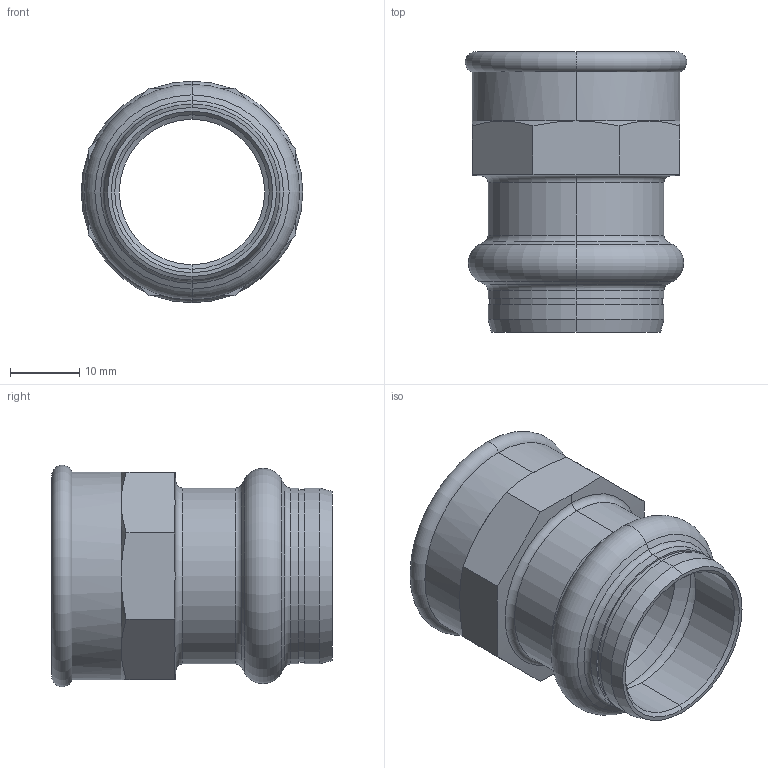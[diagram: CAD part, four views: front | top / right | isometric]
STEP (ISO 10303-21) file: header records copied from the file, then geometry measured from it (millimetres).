
FILE_DESCRIPTION (( 'STEP AP203' ), '1' );
FILE_NAME ('SP4270G Ø22 3-4.STEP', '2017-04-26T08:28:32', ( '' ), ( '' ), 'SwSTEP 2.0', 'SolidWorks 2016', '' );
FILE_SCHEMA (( 'CONFIG_CONTROL_DESIGN' ));
Length unit declared in the file: millimetre
Products named in the file (1): SP4270G Ø22 3-4
Bounding box: 31.99 x 40.5 x 31.99 mm (x, y, z)
Volume: 8156.7 mm3; surface area: 7814.5 mm2
Topology: 1 solids, 1 shells, 68 faces, 144 edges, 82 vertices
Faces by surface type: cone 24, cylinder 18, plane 14, torus 12
Entity records: 1971 total; most frequent: CARTESIAN_POINT 429, DIRECTION 332, ORIENTED_EDGE 288, AXIS2_PLACEMENT_3D 145, EDGE_CURVE 144, VERTEX_POINT 82, CIRCLE 76, EDGE_LOOP 74
